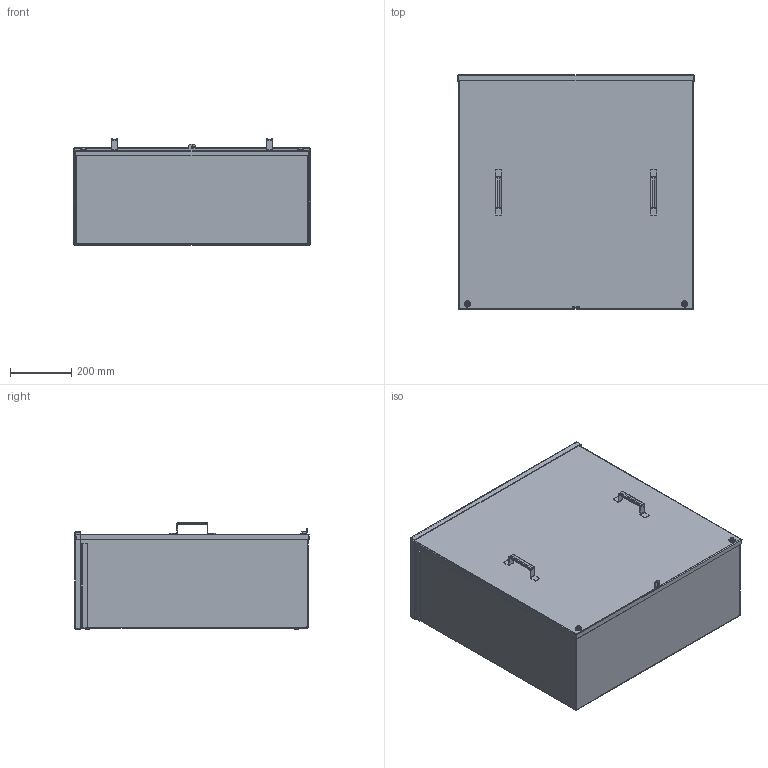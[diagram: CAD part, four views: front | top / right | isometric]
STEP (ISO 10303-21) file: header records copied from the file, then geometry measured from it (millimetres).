
FILE_DESCRIPTION((''),'1');
FILE_NAME('4','2001-04-17T',('jlue'),(''),'PRO/ENGINEER BY PARAMETRIC TECHNOLOGY CORPORATION, 9846','PRO/ENGINEER BY PARAMETRIC TECHNOLOGY CORPORATION, 9846','');
FILE_SCHEMA(('CONFIG_CONTROL_DESIGN'));
Length unit declared in the file: inch
Products named in the file (1): 4
Bounding box: 774.7 x 768.86 x 348.79 mm (x, y, z)
Surface area: 4455498.2 mm2 (no closed solid volume)
Topology: 0 solids, 0 shells, 246 faces, 1343 edges, 1348 vertices
Faces by surface type: plane 157, cylinder 73, torus 8, sphere 4, cone 4
Entity records: 6901 total; most frequent: CARTESIAN_POINT 1354, COMPOSITE_CURVE_SEGMENT 1310, DIRECTION 1284, TRIMMED_CURVE 618, VECTOR 444, LINE 444, AXIS2_PLACEMENT_3D 420, CURVE_BOUNDED_SURFACE 246
